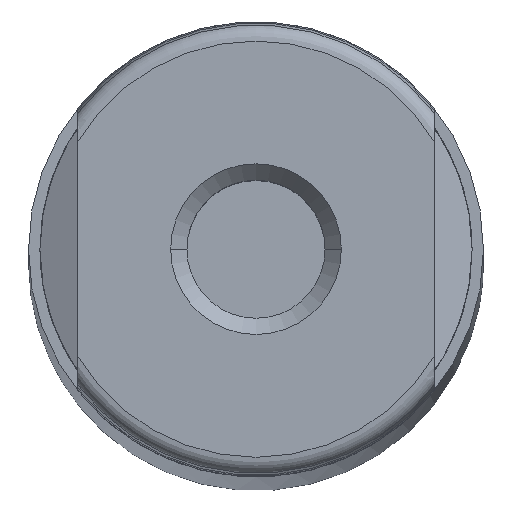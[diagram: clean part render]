
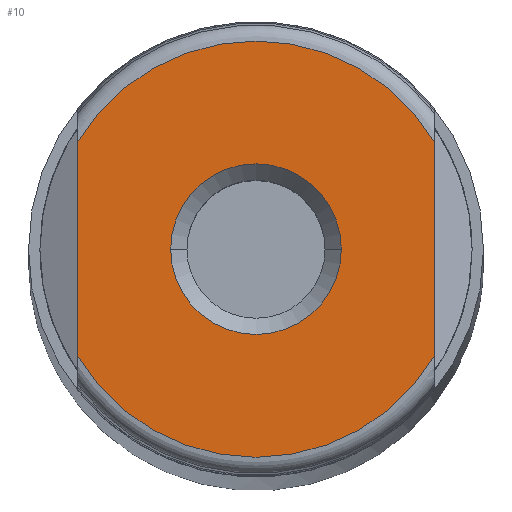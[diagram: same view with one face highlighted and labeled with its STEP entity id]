
A CAD part, top view. The second image highlights one B-rep face of the part: STEP entity #10.
In plain terms, the highlighted planar face has unit normal (0, 0, 1).
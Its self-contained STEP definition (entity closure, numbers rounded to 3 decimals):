
#10 = ADVANCED_FACE ( 'NONE', ( #276, #277 ), #278, .F. ) ;
#78 = EDGE_CURVE ( 'NONE', #80, #116, #827, .T. ) ;
#80 = VERTEX_POINT ( 'NONE', #844 ) ;
#96 = ORIENTED_EDGE ( 'NONE', *, *, #1341, .F. ) ;
#115 = ORIENTED_EDGE ( 'NONE', *, *, #78, .T. ) ;
#116 = VERTEX_POINT ( 'NONE', #1042 ) ;
#132 = ORIENTED_EDGE ( 'NONE', *, *, #1290, .F. ) ;
#160 = VERTEX_POINT ( 'NONE', #659 ) ;
#178 = CIRCLE ( 'NONE', #179, 5.25 ) ;
#179 = AXIS2_PLACEMENT_3D ( 'NONE', #180, #181, #182 ) ;
#180 = CARTESIAN_POINT ( 'NONE',  ( 0., 0., 0. ) ) ;
#181 = DIRECTION ( 'NONE',  ( 0., 0., 1. ) ) ;
#182 = DIRECTION ( 'NONE',  ( 1., 0., 0. ) ) ;
#204 = EDGE_LOOP ( 'NONE', ( #132, #1359 ) ) ;
#276 = FACE_BOUND ( 'NONE', #204, .T. ) ;
#277 = FACE_OUTER_BOUND ( 'NONE', #1366, .T. ) ;
#278 = PLANE ( 'NONE',  #279 ) ;
#279 = AXIS2_PLACEMENT_3D ( 'NONE', #280, #281, #282 ) ;
#280 = CARTESIAN_POINT ( 'NONE',  ( 0., 0., 0. ) ) ;
#281 = DIRECTION ( 'NONE',  ( 0., 0., -1. ) ) ;
#282 = DIRECTION ( 'NONE',  ( -1., 0., 0. ) ) ;
#294 = EDGE_CURVE ( 'NONE', #160, #80, #863, .T. ) ;
#391 = EDGE_CURVE ( 'NONE', #1326, #1257, #178, .T. ) ;
#659 = CARTESIAN_POINT ( 'NONE',  ( 11., -6.56, 0. ) ) ;
#788 = CARTESIAN_POINT ( 'NONE',  ( -5.25, 0., 0. ) ) ;
#827 = CIRCLE ( 'NONE', #828, 12.808 ) ;
#828 = AXIS2_PLACEMENT_3D ( 'NONE', #829, #830, #831 ) ;
#829 = CARTESIAN_POINT ( 'NONE',  ( 0., 0., 0. ) ) ;
#830 = DIRECTION ( 'NONE',  ( 0., 0., 1. ) ) ;
#831 = DIRECTION ( 'NONE',  ( 1., 0., 0. ) ) ;
#844 = CARTESIAN_POINT ( 'NONE',  ( 11., 6.56, 0. ) ) ;
#845 = LINE ( 'NONE', #846, #847 ) ;
#846 = CARTESIAN_POINT ( 'NONE',  ( -11., -14., 0. ) ) ;
#847 = VECTOR ( 'NONE', #848, 1000. ) ;
#848 = DIRECTION ( 'NONE',  ( 0., 1., 0. ) ) ;
#863 = LINE ( 'NONE', #864, #865 ) ;
#864 = CARTESIAN_POINT ( 'NONE',  ( 11., -14., 0. ) ) ;
#865 = VECTOR ( 'NONE', #866, 1000. ) ;
#866 = DIRECTION ( 'NONE',  ( 0., 1., 0. ) ) ;
#880 = CIRCLE ( 'NONE', #881, 12.808 ) ;
#881 = AXIS2_PLACEMENT_3D ( 'NONE', #882, #883, #884 ) ;
#882 = CARTESIAN_POINT ( 'NONE',  ( 0., 0., 0. ) ) ;
#883 = DIRECTION ( 'NONE',  ( 0., 0., 1. ) ) ;
#884 = DIRECTION ( 'NONE',  ( 1., 0., 0. ) ) ;
#963 = CARTESIAN_POINT ( 'NONE',  ( -11., -6.56, 0. ) ) ;
#1013 = CARTESIAN_POINT ( 'NONE',  ( 5.25, 0., 0. ) ) ;
#1042 = CARTESIAN_POINT ( 'NONE',  ( -11., 6.56, 0. ) ) ;
#1188 = CIRCLE ( 'NONE', #1189, 5.25 ) ;
#1189 = AXIS2_PLACEMENT_3D ( 'NONE', #1190, #1191, #1192 ) ;
#1190 = CARTESIAN_POINT ( 'NONE',  ( 0., 0., 0. ) ) ;
#1191 = DIRECTION ( 'NONE',  ( 0., 0., 1. ) ) ;
#1192 = DIRECTION ( 'NONE',  ( 1., 0., 0. ) ) ;
#1247 = VERTEX_POINT ( 'NONE', #963 ) ;
#1257 = VERTEX_POINT ( 'NONE', #1013 ) ;
#1268 = ORIENTED_EDGE ( 'NONE', *, *, #294, .T. ) ;
#1290 = EDGE_CURVE ( 'NONE', #1257, #1326, #1188, .T. ) ;
#1326 = VERTEX_POINT ( 'NONE', #788 ) ;
#1327 = ORIENTED_EDGE ( 'NONE', *, *, #1346, .T. ) ;
#1341 = EDGE_CURVE ( 'NONE', #1247, #116, #845, .T. ) ;
#1346 = EDGE_CURVE ( 'NONE', #1247, #160, #880, .T. ) ;
#1359 = ORIENTED_EDGE ( 'NONE', *, *, #391, .F. ) ;
#1366 = EDGE_LOOP ( 'NONE', ( #1327, #1268, #115, #96 ) ) ;
